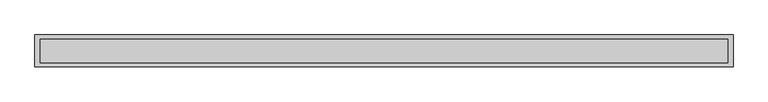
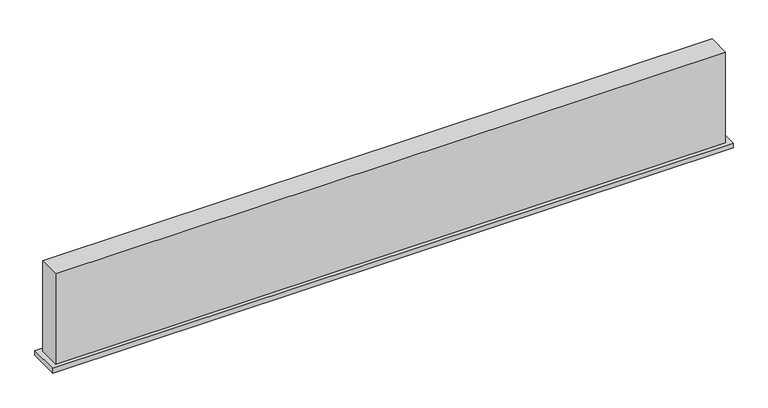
"""IFC4 building model written with IfcOpenShell, lengths in millimetres: air terminal geometry, 033_線状吹出口_BL : BL-S."""

from ifc_helpers import new_model, si_unit, frame, origin, origin_with_axes, place, context, project, spatial, polyline, outline, extrude, source, transform, mapped, element, save


def air_terminal_90092d51(model_context):
    return source(origin(), model_context, "Body", "SweptSolid", [
        extrude(outline(polyline([(711.0, -32.5), (-711.0, -32.5), (-711.0, 32.5), (711.0, 32.5), (711.0, -32.5)]), holes=[polyline([(700.0, -24.0), (700.0, 24.0), (-700.0, 24.0), (-700.0, -24.0), (700.0, -24.0)])]), frame((0.0, 0.0, -10.0), z_axis=(0.0, 0.0, 1.0), x_axis=(1.0, 0.0, 0.0)), (0.0, 0.0, 1.0), 10.0),
        extrude(outline(polyline([(700.0, 24.0), (700.0, -24.0), (-700.0, -24.0), (-700.0, 24.0), (700.0, 24.0)])), origin_with_axes(), (0.0, 0.0, 1.0), 200.0),
    ])


if __name__ == "__main__":
    model = new_model("IFC4")
    model_context = context("Model", 3, world=origin())
    ifc_project = project(units=[si_unit("LENGTHUNIT", "METRE", prefix="MILLI")], contexts=[model_context])
    site = spatial("IfcSite", under=ifc_project)
    building = spatial("IfcBuilding", under=site)
    placement = place(None, origin())
    air_terminal_shape = air_terminal_90092d51(model_context)
    element("IfcAirTerminal", 1, ObjectType="033_線状吹出口_BL : BL-S", at=placement, inside=building, context=model_context, shape_type="MappedRepresentation", body=[
        mapped(air_terminal_shape, transform((0.0, 0.0, 0.0), x_axis=(1.0, 0.0, 0.0), y_axis=(0.0, 1.0, 0.0), z_axis=(0.0, 0.0, 1.0))),
    ])
    save(model, "model.ifc")
